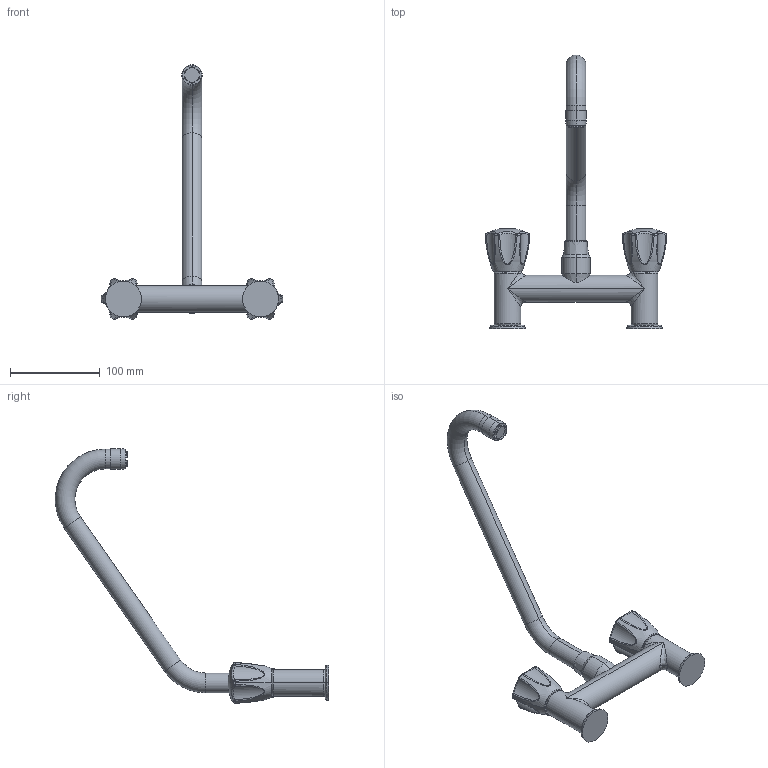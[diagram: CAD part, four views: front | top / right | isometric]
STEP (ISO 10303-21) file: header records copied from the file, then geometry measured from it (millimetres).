
FILE_DESCRIPTION((''),'2;1');
FILE_NAME('K_24_42_K1_000C34','2012-01-04T',('HEF'),(''),'PRO/ENGINEER BY PARAMETRIC TECHNOLOGY CORPORATION, 2011080','PRO/ENGINEER BY PARAMETRIC TECHNOLOGY CORPORATION, 2011080','');
FILE_SCHEMA(('AUTOMOTIVE_DESIGN_CC2 { 1 2 10303 214 -1 1 5 2 }'));
Length unit declared in the file: millimetre
Products named in the file (1): K_24_42_K1_000C34
Bounding box: 202.9 x 305.4 x 284.24 mm (x, y, z)
Volume: 489218 mm3; surface area: 74530.5 mm2
Topology: 1 solids, 1 shells, 293 faces, 679 edges, 410 vertices
Faces by surface type: plane 108, cylinder 57, bspline 44, torus 38, sphere 28, cone 14, extrusion 4
Entity records: 16828 total; most frequent: CARTESIAN_POINT 8181, DIRECTION 1375, ORIENTED_EDGE 1358, EDGE_CURVE 679, AXIS2_PLACEMENT_3D 531, VERTEX_POINT 410, EDGE_LOOP 315, VECTOR 313
